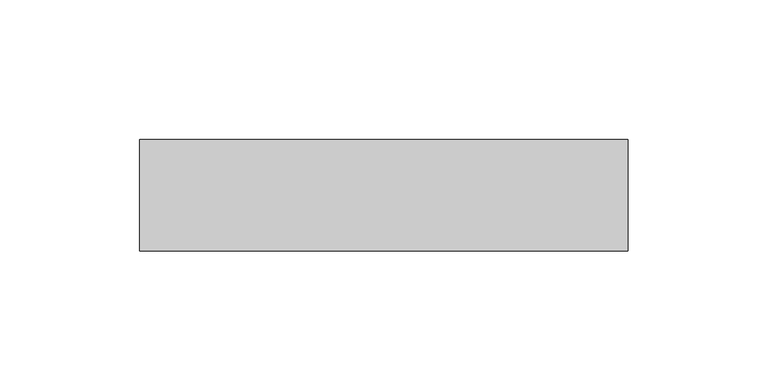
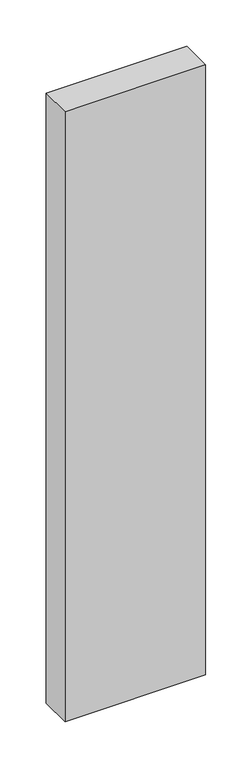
"""IFC4 building model written with IfcOpenShell, lengths in millimetres: plate geometry, Vitré."""

import ifcopenshell
import ifcopenshell.guid

model = None  # the IFC model being written
_history = None  # IfcOwnerHistory: only IFC2X3 demands one
_inside = {}  # id of a spatial element -> (the spatial element, [elements in it])
_under = {}  # id of a project, library or spatial element -> (it, [spatial elements below it])
_declared = {}  # id of a project -> (the project, [libraries it declares])
_typed = {}  # id of a type object -> (the type object, [elements of that type])
_made_of = {}  # id of a material, layer set ... -> (it, [elements and type objects made of it])


def new_model(schema):
    """Start an empty IFC model of exactly this schema.

    Asked for "IFC4X3", IfcOpenShell would pick the latest addendum, in which some entities
    have other attributes; the version numbers below select the first issue.
    IFC2X3 requires an IfcOwnerHistory on every rooted entity: one is made here for all.
    """
    global model, _history
    if schema == "IFC4X3":
        model = ifcopenshell.file(schema_version=(4, 3, 0, 0))
    else:
        model = ifcopenshell.file(schema=schema)
    _inside.clear()
    _under.clear()
    _declared.clear()
    _typed.clear()
    _made_of.clear()
    _history = None
    if model.schema == "IFC2X3":
        org = make("IfcOrganization", Name="unknown")
        user = make(
            "IfcPersonAndOrganization",
            ThePerson=make("IfcPerson", FamilyName="unknown"),
            TheOrganization=org,
        )
        app = make(
            "IfcApplication",
            ApplicationDeveloper=org,
            Version="unknown",
            ApplicationFullName="unknown",
            ApplicationIdentifier="unknown",
        )
        _history = make(
            "IfcOwnerHistory",
            OwningUser=user,
            OwningApplication=app,
            ChangeAction="ADDED",
            CreationDate=0,
        )
    return model


def make(cls, **values):
    """One entity of the class cls with the attributes given. An attribute that is None is left unset."""
    return model.create_entity(
        cls, **{name: value for name, value in values.items() if value is not None}
    )


def rooted(cls, **values):
    """An entity with a GlobalId (a new one), such as an element, a storey or a relation."""
    return make(cls, GlobalId=ifcopenshell.guid.new(), OwnerHistory=_history, **values)


def si_unit(unit_type, name, prefix=None):
    """IfcSIUnit, for example si_unit("LENGTHUNIT", "METRE", prefix="MILLI")."""
    return make("IfcSIUnit", UnitType=unit_type, Prefix=prefix, Name=name)


def assignment(units):
    """IfcUnitAssignment: the units of a project."""
    return None if units is None else make("IfcUnitAssignment", Units=units)


def point(xyz):
    """IfcCartesianPoint."""
    return None if xyz is None else make("IfcCartesianPoint", Coordinates=xyz)


def direction(xyz):
    """IfcDirection."""
    return None if xyz is None else make("IfcDirection", DirectionRatios=xyz)


def frame(location, z_axis=None, x_axis=None):
    """IfcAxis2Placement3D, a coordinate frame: its origin and axes. An axis left out is left unset."""
    return make(
        "IfcAxis2Placement3D",
        Location=point(location),
        Axis=direction(z_axis),
        RefDirection=direction(x_axis),
    )


def origin():
    """The frame at (0, 0, 0) with its axes left unset."""
    return frame((0.0, 0.0, 0.0))


def origin_with_axes():
    """The frame at (0, 0, 0) with the z axis (0, 0, 1) and the x axis (1, 0, 0) written out."""
    return frame((0.0, 0.0, 0.0), z_axis=(0.0, 0.0, 1.0), x_axis=(1.0, 0.0, 0.0))


def place(relative_to, where):
    """IfcLocalPlacement: puts the frame where relative to a parent placement (None: the world)."""
    return make(
        "IfcLocalPlacement", PlacementRelTo=relative_to, RelativePlacement=where
    )


def context(
    kind, dimensions, precision=None, world=None, true_north=None, identifier=None
):
    """IfcGeometricRepresentationContext, for example the 3D "Model" context."""
    return make(
        "IfcGeometricRepresentationContext",
        ContextIdentifier=identifier,
        ContextType=kind,
        CoordinateSpaceDimension=dimensions,
        Precision=precision,
        WorldCoordinateSystem=world,
        TrueNorth=true_north,
    )


def project(units=None, contexts=None):
    """IfcProject with its units and contexts."""
    return rooted(
        "IfcProject",
        Name="project",
        RepresentationContexts=contexts,
        UnitsInContext=assignment(units),
    )


def spatial(cls, under=None, at=None, **own):
    """A site, building, storey or space (cls), placed at a placement, below another one or the project."""
    s = rooted(cls, ObjectPlacement=at, **own)
    if under is not None:
        _under.setdefault(under.id(), (under, []))[1].append(s)
    return s


def polyline(points):
    """IfcPolyline through the points."""
    return make("IfcPolyline", Points=[point(p) for p in points])


def outline(outer, holes=None, kind="AREA"):
    """IfcArbitraryClosedProfileDef: a profile drawn as a closed curve; with holes, ...WithVoids."""
    if holes is None:
        return make("IfcArbitraryClosedProfileDef", ProfileType=kind, OuterCurve=outer)
    return make(
        "IfcArbitraryProfileDefWithVoids",
        ProfileType=kind,
        OuterCurve=outer,
        InnerCurves=holes,
    )


def extrude(swept, where, along, depth):
    """IfcExtrudedAreaSolid: the profile swept, set in the frame where, extruded along a direction by depth."""
    return make(
        "IfcExtrudedAreaSolid",
        SweptArea=swept,
        Position=where,
        ExtrudedDirection=direction(along),
        Depth=depth,
    )


def shape(context_of_items, identifier, shape_type, items):
    """IfcShapeRepresentation: the items that make up one representation, for example the "Body"."""
    return make(
        "IfcShapeRepresentation",
        ContextOfItems=context_of_items,
        RepresentationIdentifier=identifier,
        RepresentationType=shape_type,
        Items=items,
    )


def source(mapping_origin, context_of_items, identifier, shape_type, items):
    """IfcRepresentationMap: a shape defined once, which mapped items show again and again."""
    return make(
        "IfcRepresentationMap",
        MappingOrigin=mapping_origin,
        MappedRepresentation=shape(context_of_items, identifier, shape_type, items),
    )


def transform(
    local_origin,
    x_axis=None,
    y_axis=None,
    z_axis=None,
    scale=None,
    scale2=None,
    scale3=None,
    uniform=True,
):
    """IfcCartesianTransformationOperator3D, or its non-uniform kind. x_axis, y_axis, z_axis: its Axis1, 2, 3."""
    if uniform:
        return make(
            "IfcCartesianTransformationOperator3D",
            Axis1=direction(x_axis),
            Axis2=direction(y_axis),
            LocalOrigin=point(local_origin),
            Scale=scale,
            Axis3=direction(z_axis),
        )
    return make(
        "IfcCartesianTransformationOperator3DnonUniform",
        Axis1=direction(x_axis),
        Axis2=direction(y_axis),
        LocalOrigin=point(local_origin),
        Scale=scale,
        Axis3=direction(z_axis),
        Scale2=scale2,
        Scale3=scale3,
    )


def mapped(mapping_source, mapping_target):
    """IfcMappedItem: shows the shape of a source again, moved by a transform."""
    return make(
        "IfcMappedItem", MappingSource=mapping_source, MappingTarget=mapping_target
    )


def made_of(thing, what):
    """Note that an element or type object is made of a material, layer set ...; save() writes the relation."""
    if what is not None:
        _made_of.setdefault(what.id(), (what, []))[1].append(thing)
    return thing


def element(
    cls,
    number,
    at=None,
    inside=None,
    cuts=None,
    type_object=None,
    material=None,
    context=None,
    identifier="Body",
    shape_type=None,
    held_by="IfcProductDefinitionShape",
    body=None,
    shapes=None,
    **own,
):
    """One element of the class cls, such as IfcWall. Its Tag is "e" and its number.

    at: its placement. inside: the storey or other place that contains it. cuts: it is an
    opening in that element (IfcRelVoidsElement). A single representation is given by context,
    identifier, shape_type and body (its items); several are given by shapes. held_by: the class
    of the entity that holds the representations. save() writes the other relations.
    """
    e = rooted(cls, Tag="e%d" % number, ObjectPlacement=at, **own)
    if body is not None:
        shapes = [shape(context, identifier, shape_type, body)]
    if shapes is not None:
        e.Representation = make(held_by, Representations=shapes)
    if inside is not None:
        _inside.setdefault(inside.id(), (inside, []))[1].append(e)
    if cuts is not None:
        rooted(
            "IfcRelVoidsElement", RelatingBuildingElement=cuts, RelatedOpeningElement=e
        )
    if type_object is not None:
        _typed.setdefault(type_object.id(), (type_object, []))[1].append(e)
    return made_of(e, material)


def aggregate(whole, parts):
    """IfcRelAggregates: a whole, such as a stair, and the parts it consists of."""
    return rooted("IfcRelAggregates", RelatingObject=whole, RelatedObjects=parts)


def save(model, path):
    """Write the relations noted so far, then the file.

    IfcRelAggregates (storeys below a building ...), IfcRelContainedInSpatialStructure (elements
    in a storey), IfcRelDefinesByType, IfcRelAssociatesMaterial and IfcRelDeclares: one each for
    every whole, place, type object, material and project.
    """
    for whole, parts in _under.values():
        aggregate(whole, parts)
    for where, things in _inside.values():
        rooted(
            "IfcRelContainedInSpatialStructure",
            RelatedElements=things,
            RelatingStructure=where,
        )
    for kind, things in _typed.values():
        rooted("IfcRelDefinesByType", RelatedObjects=things, RelatingType=kind)
    for what, things in _made_of.values():
        rooted("IfcRelAssociatesMaterial", RelatedObjects=things, RelatingMaterial=what)
    for by, libraries in _declared.values():
        rooted("IfcRelDeclares", RelatingContext=by, RelatedDefinitions=libraries)
    model.write(path)


def plate_11eb8323(model_context):
    return source(origin(), model_context, "Body", "SweptSolid", [
        extrude(outline(polyline([(-87.5, -20.0), (-87.5, 20.0), (87.5, 20.0), (87.5, -20.0), (-87.5, -20.0)])), origin_with_axes(), (0.0, 0.0, 1.0), 801.2351114),
    ])


if __name__ == "__main__":
    model = new_model("IFC4")
    model_context = context("Model", 3, world=origin())
    ifc_project = project(units=[si_unit("LENGTHUNIT", "METRE", prefix="MILLI")], contexts=[model_context])
    site = spatial("IfcSite", under=ifc_project)
    building = spatial("IfcBuilding", under=site)
    placement = place(None, origin())
    plate_shape = plate_11eb8323(model_context)
    element("IfcPlate", 1, ObjectType="Vitré", at=placement, inside=building, context=model_context, shape_type="MappedRepresentation", body=[
        mapped(plate_shape, transform((0.0, 0.0, 0.0), x_axis=(1.0, 0.0, 0.0), y_axis=(0.0, 1.0, 0.0), z_axis=(0.0, 0.0, 1.0))),
    ])
    save(model, "model.ifc")
